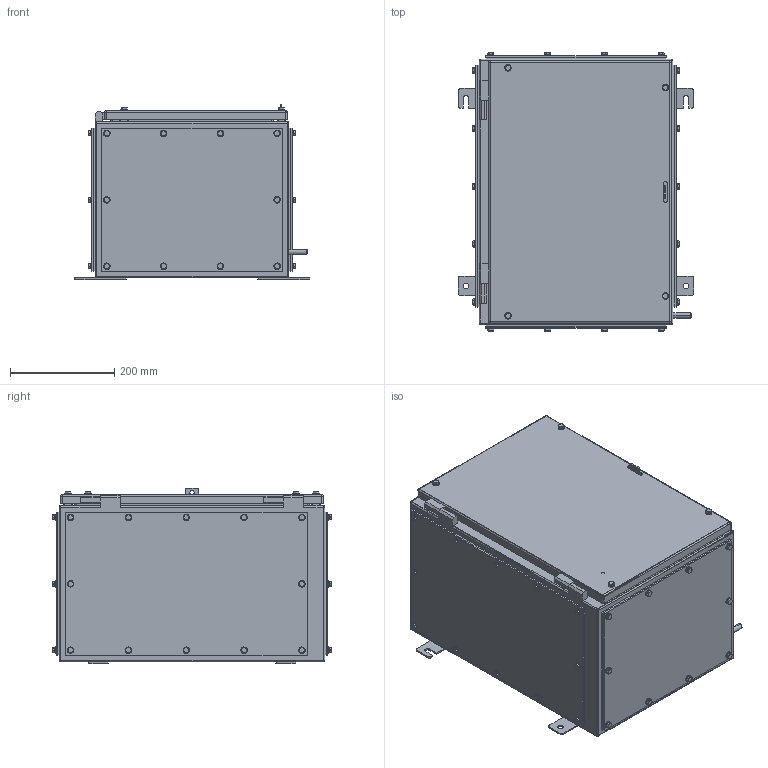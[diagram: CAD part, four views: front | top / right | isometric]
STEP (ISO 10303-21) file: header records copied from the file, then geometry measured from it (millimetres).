
FILE_DESCRIPTION (( 'STEP AP203' ), '1' );
FILE_NAME ('SX4_300_4GP.STEP', '2021-05-20T14:32:08', ( '' ), ( '' ), 'SwSTEP 2.0', 'SolidWorks 2020', '' );
FILE_SCHEMA (( 'CONFIG_CONTROL_DESIGN' ));
Length unit declared in the file: millimetre
Products named in the file (10): SX4-300 Base Gland plate; SX4 Door; SX4-300 side Gland plate; hex screw gradec_bsi_BS EN 24018 - M6 x 20-WN; SX4-300 side Gasket; SX4_300_4GP Body; SX4_300_4GP; hex screw gradec_bsi_BS EN 24018 - M6 x 16-WN; plain washer form a_bsi_Bright washer BS 4320 - M6 (Form A); SX4-300 Base Gasket
Assembly tree (106 placements, depth 2):
  SX4_300_4GP
    SX4 Door
    hex screw gradec_bsi_BS EN 24018 - M6 x 16-WN  x44
    hex screw gradec_bsi_BS EN 24018 - M6 x 20-WN  x4
    plain washer form a_bsi_Bright washer BS 4320 - M6 (Form A)  x48
    SX4_300_4GP Body
    SX4-300 Base Gland plate  x2
    SX4-300 Base Gasket  x2
    SX4-300 side Gasket  x2
    SX4-300 side Gland plate  x2
Bounding box: 452 x 533.95 x 336 mm (x, y, z)
Volume: 3102290.1 mm3; surface area: 2540666.9 mm2
Topology: 106 solids, 106 shells, 2483 faces, 5413 edges, 3274 vertices
Faces by surface type: plane 1126, cylinder 917, cone 392, sphere 40, torus 8
Entity records: 27961 total; most frequent: DIRECTION 4691, CARTESIAN_POINT 4141, ORIENTED_EDGE 3770, AXIS2_PLACEMENT_3D 1888, EDGE_CURVE 1885, VERTEX_POINT 1194, EDGE_LOOP 1075, CIRCLE 946
